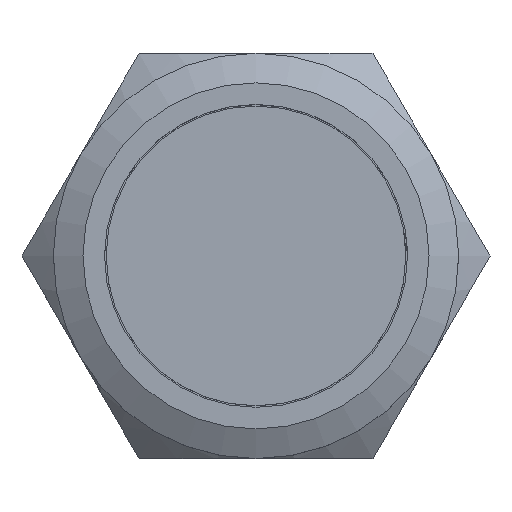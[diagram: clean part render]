
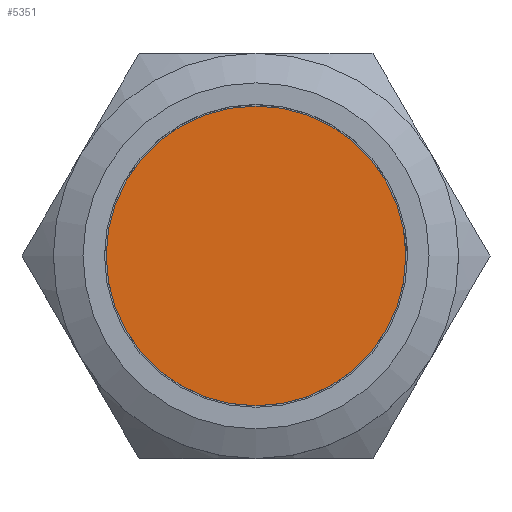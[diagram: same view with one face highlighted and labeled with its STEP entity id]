
A CAD part, top view. The second image highlights one B-rep face of the part: STEP entity #5351.
In plain terms, the highlighted planar face has unit normal (0, 0, 1).
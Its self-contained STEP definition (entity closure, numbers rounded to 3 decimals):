
#890=CIRCLE('',#21053,6.95);
#4744=PLANE('',#21055);
#5351=ADVANCED_FACE('',(#6262),#4744,.T.);
#6262=FACE_OUTER_BOUND('',#7082,.T.);
#7082=EDGE_LOOP('',(#11830));
#11830=ORIENTED_EDGE('',*,*,#18344,.F.);
#16689=VERTEX_POINT('',#26990);
#18344=EDGE_CURVE('',#16689,#16689,#890,.T.);
#21053=AXIS2_PLACEMENT_3D('',#26989,#22474,#22475);
#21055=AXIS2_PLACEMENT_3D('',#26992,#22478,#22479);
#22474=DIRECTION('',(0.,0.,-1.));
#22475=DIRECTION('',(0.,1.,0.));
#22478=DIRECTION('',(0.,0.,1.));
#22479=DIRECTION('',(0.,-1.,0.));
#26989=CARTESIAN_POINT('',(-102.901,84.658,-29.65));
#26990=CARTESIAN_POINT('',(-102.901,91.608,-29.65));
#26992=CARTESIAN_POINT('',(-95.951,84.658,-29.65));
